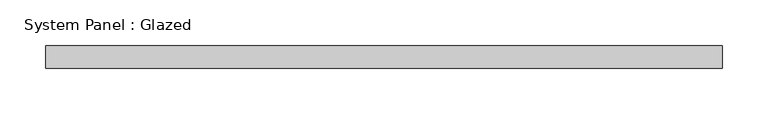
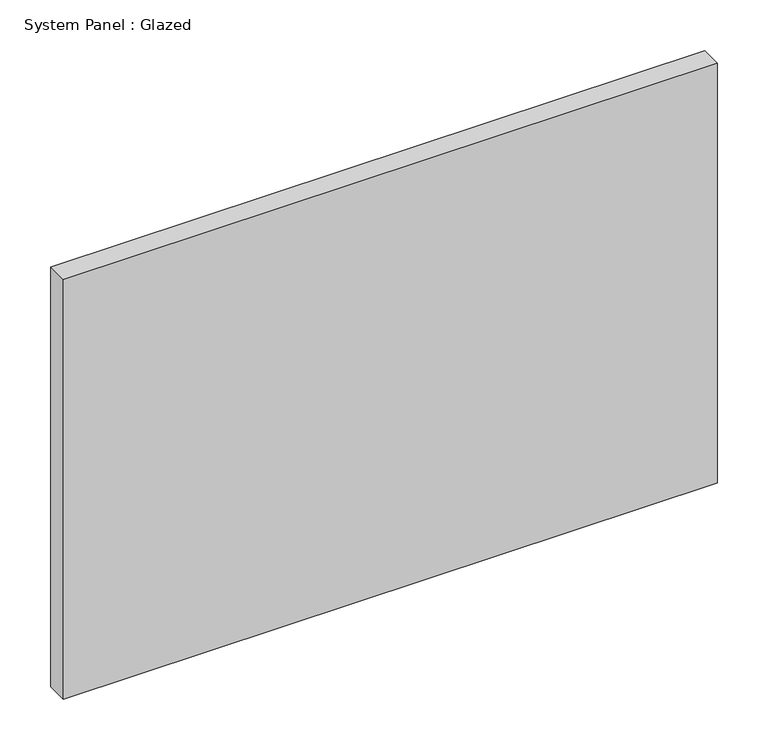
"""IFC4 building model written with IfcOpenShell, lengths in millimetres: plate geometry, System Panel : Glazed."""

from ifc_helpers import new_model, si_unit, origin, origin_with_axes, place, context, project, spatial, polyline, outline, extrude, source, transform, mapped, element, save


def system_panel_glazed_7d47e8fc(model_context):
    return source(origin(), model_context, "Body", "SweptSolid", [
        extrude(outline(polyline([(371.9365081, -12.5), (-371.9365081, -12.5), (-371.9365081, 12.5), (371.9365081, 12.5), (371.9365081, -12.5)])), origin_with_axes(), (0.0, 0.0, 1.0), 505.0),
    ])


if __name__ == "__main__":
    model = new_model("IFC4")
    model_context = context("Model", 3, world=origin())
    ifc_project = project(units=[si_unit("LENGTHUNIT", "METRE", prefix="MILLI")], contexts=[model_context])
    site = spatial("IfcSite", under=ifc_project)
    building = spatial("IfcBuilding", under=site)
    placement = place(None, origin())
    system_panel_glazed_shape = system_panel_glazed_7d47e8fc(model_context)
    element("IfcPlate", 1, ObjectType="System Panel : Glazed", at=placement, inside=building, context=model_context, shape_type="MappedRepresentation", body=[
        mapped(system_panel_glazed_shape, transform((0.0, 0.0, 0.0), x_axis=(1.0, 0.0, 0.0), y_axis=(0.0, 1.0, 0.0), z_axis=(0.0, 0.0, 1.0))),
    ])
    save(model, "model.ifc")
